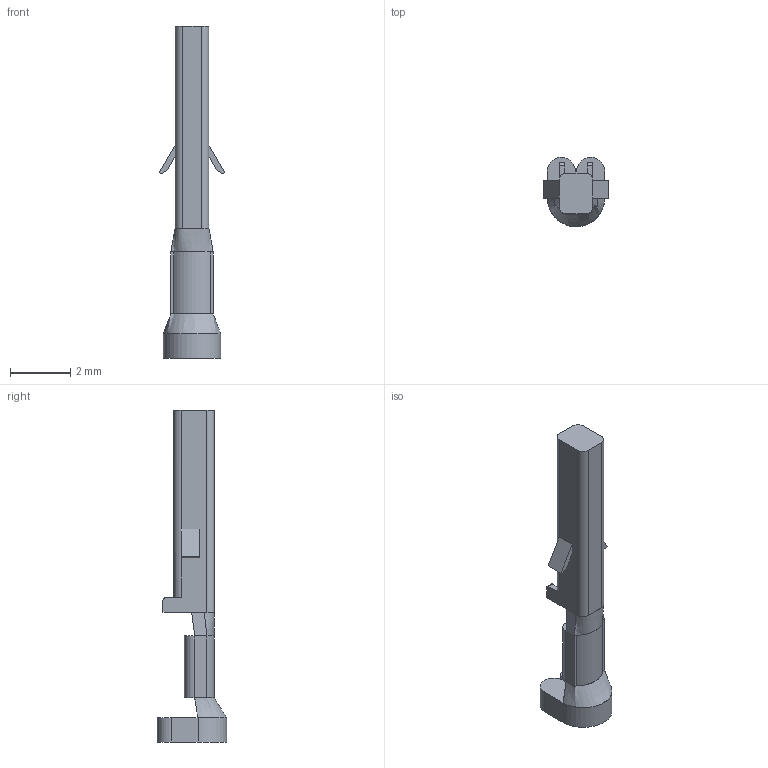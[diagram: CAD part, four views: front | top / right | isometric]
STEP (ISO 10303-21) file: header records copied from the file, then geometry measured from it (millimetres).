
FILE_DESCRIPTION(('STEP AP242'),'1');
FILE_NAME('0430300007.stp','2026-03-18T11:48:41',('TraceParts'),('TraceParts S.A.S.'),'Spatial InterOp 3D',' ',' ');
FILE_SCHEMA(('AP242_MANAGED_MODEL_BASED_3D_ENGINEERING_MIM_LF {1 0 10303 442 1 1 4}'));
Length unit declared in the file: millimetre
Products named in the file (1): 1
Bounding box: 2.18 x 2.3 x 10.99 mm (x, y, z)
Volume: 15.6 mm3; surface area: 71.9 mm2
Topology: 5 solids, 5 shells, 71 faces, 239 edges, 239 vertices
Faces by surface type: plane 49, cylinder 16, bspline 6
Entity records: 3919 total; most frequent: CARTESIAN_POINT 1465, DIRECTION 416, ORIENTED_EDGE 350, EDGE_CURVE 175, LINE 170, VECTOR 170, AXIS2_PLACEMENT_3D 123, VERTEX_POINT 114
